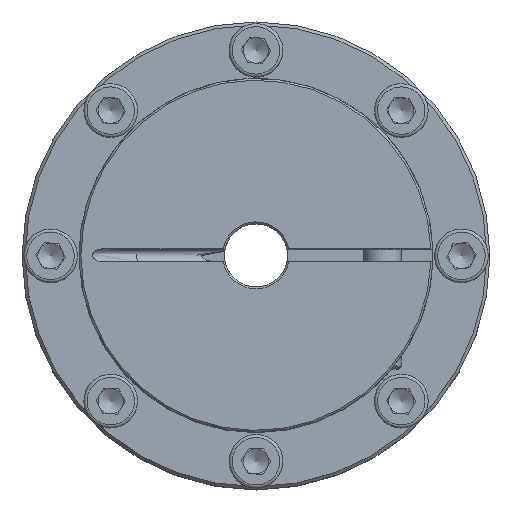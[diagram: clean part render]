
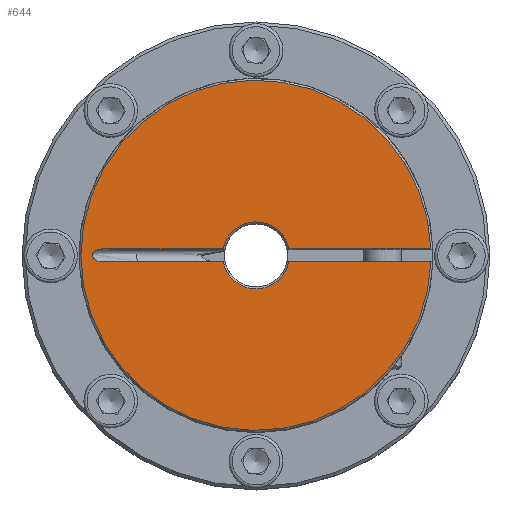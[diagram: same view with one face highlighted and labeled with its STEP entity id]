
A CAD part, top view. The second image highlights one B-rep face of the part: STEP entity #644.
In plain terms, the highlighted planar face has unit normal (0, 0, 1).
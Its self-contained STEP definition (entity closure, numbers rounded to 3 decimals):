
#644 = ADVANCED_FACE( 'NONE', ( #1299 ), #1300, .T. );
#1299 = FACE_OUTER_BOUND( '', #2119, .T. );
#1300 = PLANE( '', #2120 );
#2119 = EDGE_LOOP( '', ( #3180, #3181, #3182, #3183, #3184, #3185, #3186, #3187 ) );
#2120 = AXIS2_PLACEMENT_3D( '', #3188, #3189, #3190 );
#3180 = ORIENTED_EDGE( '', *, *, #4320, .F. );
#3181 = ORIENTED_EDGE( '', *, *, #4321, .T. );
#3182 = ORIENTED_EDGE( '', *, *, #4277, .T. );
#3183 = ORIENTED_EDGE( '', *, *, #4322, .T. );
#3184 = ORIENTED_EDGE( '', *, *, #4323, .T. );
#3185 = ORIENTED_EDGE( '', *, *, #4324, .T. );
#3186 = ORIENTED_EDGE( '', *, *, #4325, .F. );
#3187 = ORIENTED_EDGE( '', *, *, #4058, .T. );
#3188 = CARTESIAN_POINT( '', ( 0., 0., 21. ) );
#3189 = DIRECTION( '', ( 0., 0., 1. ) );
#3190 = DIRECTION( '', ( 1., 0., 0. ) );
#4058 = EDGE_CURVE( 'NONE', #4585, #4582, #4586, .F. );
#4277 = EDGE_CURVE( 'NONE', #4929, #4930, #4931, .T. );
#4320 = EDGE_CURVE( 'NONE', #4991, #4582, #4992, .F. );
#4321 = EDGE_CURVE( 'NONE', #4991, #4929, #4993, .T. );
#4322 = EDGE_CURVE( 'NONE', #4930, #4994, #4995, .F. );
#4323 = EDGE_CURVE( 'NONE', #4994, #4996, #4997, .T. );
#4324 = EDGE_CURVE( 'NONE', #4996, #4998, #4999, .T. );
#4325 = EDGE_CURVE( 'NONE', #4585, #4998, #5000, .F. );
#4582 = VERTEX_POINT( 'NONE', #5344 );
#4585 = VERTEX_POINT( 'NONE', #5350 );
#4586 = CIRCLE( '', #5351, 5.3 );
#4929 = VERTEX_POINT( 'NONE', #5957 );
#4930 = VERTEX_POINT( 'NONE', #5958 );
#4931 = LINE( '', #5959, #5960 );
#4991 = VERTEX_POINT( 'NONE', #6030 );
#4992 = LINE( '', #6031, #6032 );
#4993 = CIRCLE( '', #6033, 27.7 );
#4994 = VERTEX_POINT( 'NONE', #6034 );
#4995 = CIRCLE( '', #6035, 5.3 );
#4996 = VERTEX_POINT( 'NONE', #6036 );
#4997 = LINE( '', #6037, #6038 );
#4998 = VERTEX_POINT( 'NONE', #6039 );
#4999 = B_SPLINE_CURVE_WITH_KNOTS( '', 3, ( #6040, #6041, #6042, #6043, #6044, #6045, #6046, #6047, #6048, #6049, #6050, #6051, #6052, #6053, #6054, #6055, #6056, #6057 ), .UNSPECIFIED., .F., .F., ( 4, 2, 2, 2, 2, 2, 2, 2, 4 ), ( 0., 0., 0.001, 0.001, 0.002, 0.002, 0.003, 0.003, 0.004 ), .UNSPECIFIED. );
#5000 = LINE( '', #6058, #6059 );
#5344 = CARTESIAN_POINT( '', ( 5.205, 1., 21. ) );
#5350 = CARTESIAN_POINT( '', ( -5.205, 1., 21. ) );
#5351 = AXIS2_PLACEMENT_3D( '', #6437, #6438, #6439 );
#5957 = CARTESIAN_POINT( '', ( 27.682, -1., 21. ) );
#5958 = CARTESIAN_POINT( '', ( 5.205, -1., 21. ) );
#5959 = CARTESIAN_POINT( '', ( 0., -1., 21. ) );
#5960 = VECTOR( '', #6759, 1000. );
#6030 = CARTESIAN_POINT( '', ( 27.682, 1., 21. ) );
#6031 = CARTESIAN_POINT( '', ( 17., 1., 21. ) );
#6032 = VECTOR( '', #6824, 1000. );
#6033 = AXIS2_PLACEMENT_3D( '', #6825, #6826, #6827 );
#6034 = CARTESIAN_POINT( '', ( -5.205, -1., 21. ) );
#6035 = AXIS2_PLACEMENT_3D( '', #6828, #6829, #6830 );
#6036 = CARTESIAN_POINT( '', ( -24.376, -1., 21. ) );
#6037 = CARTESIAN_POINT( '', ( 0., -1., 21. ) );
#6038 = VECTOR( '', #6831, 1000. );
#6039 = CARTESIAN_POINT( '', ( -24.376, 1., 21. ) );
#6040 = CARTESIAN_POINT( '', ( -24.376, -1., 21. ) );
#6041 = CARTESIAN_POINT( '', ( -24.54, -1., 21. ) );
#6042 = CARTESIAN_POINT( '', ( -24.701, -0.982, 21. ) );
#6043 = CARTESIAN_POINT( '', ( -25.017, -0.909, 21. ) );
#6044 = CARTESIAN_POINT( '', ( -25.173, -0.852, 21. ) );
#6045 = CARTESIAN_POINT( '', ( -25.457, -0.692, 21. ) );
#6046 = CARTESIAN_POINT( '', ( -25.588, -0.588, 21. ) );
#6047 = CARTESIAN_POINT( '', ( -25.786, -0.326, 21. ) );
#6048 = CARTESIAN_POINT( '', ( -25.848, -0.166, 21. ) );
#6049 = CARTESIAN_POINT( '', ( -25.849, 0.165, 21. ) );
#6050 = CARTESIAN_POINT( '', ( -25.787, 0.324, 21. ) );
#6051 = CARTESIAN_POINT( '', ( -25.59, 0.587, 21. ) );
#6052 = CARTESIAN_POINT( '', ( -25.459, 0.691, 21. ) );
#6053 = CARTESIAN_POINT( '', ( -25.175, 0.851, 21. ) );
#6054 = CARTESIAN_POINT( '', ( -25.021, 0.907, 21. ) );
#6055 = CARTESIAN_POINT( '', ( -24.702, 0.982, 21. ) );
#6056 = CARTESIAN_POINT( '', ( -24.54, 1., 21. ) );
#6057 = CARTESIAN_POINT( '', ( -24.376, 1., 21. ) );
#6058 = CARTESIAN_POINT( '', ( 17., 1., 21. ) );
#6059 = VECTOR( '', #6832, 1000. );
#6437 = CARTESIAN_POINT( '', ( 0., 0., 21. ) );
#6438 = DIRECTION( '', ( 0., 0., 1. ) );
#6439 = DIRECTION( '', ( 1., 0., 0. ) );
#6759 = DIRECTION( '', ( -1., 0., 0. ) );
#6824 = DIRECTION( '', ( 1., 0., 0. ) );
#6825 = CARTESIAN_POINT( '', ( 0., 0., 21. ) );
#6826 = DIRECTION( '', ( 0., 0., 1. ) );
#6827 = DIRECTION( '', ( 1., 0., 0. ) );
#6828 = CARTESIAN_POINT( '', ( 0., 0., 21. ) );
#6829 = DIRECTION( '', ( 0., 0., 1. ) );
#6830 = DIRECTION( '', ( 1., 0., 0. ) );
#6831 = DIRECTION( '', ( -1., 0., 0. ) );
#6832 = DIRECTION( '', ( 1., 0., 0. ) );
